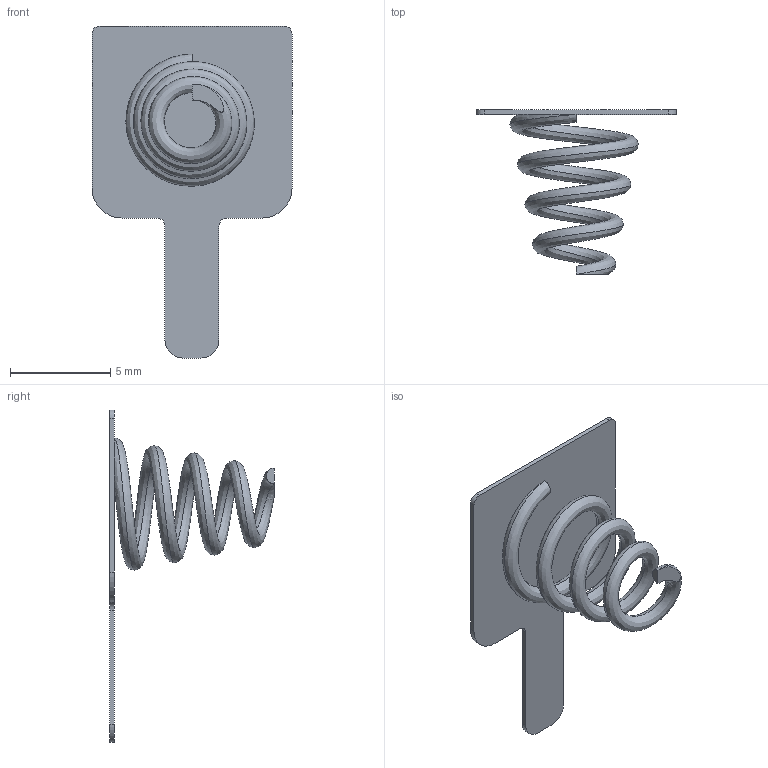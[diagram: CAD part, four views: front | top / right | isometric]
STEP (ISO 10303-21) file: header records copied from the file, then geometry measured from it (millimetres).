
FILE_DESCRIPTION((''),'2;1');
FILE_NAME('B1','2024-04-09T21:04:51',('qinghui.yi'),(''),'CREO PARAMETRIC BY PTC INC, 2019164','CREO PARAMETRIC BY PTC INC, 2019164','');
FILE_SCHEMA(('CONFIG_CONTROL_DESIGN','SHAPE_APPEARANCE_LAYERS_GROUPS'));
Length unit declared in the file: millimetre
Products named in the file (1): B1
Bounding box: 10 x 8.24 x 16.6 mm (x, y, z)
Volume: 54.9 mm3; surface area: 376.6 mm2
Topology: 1 solids, 1 shells, 23 faces, 60 edges, 44 vertices
Faces by surface type: plane 13, cylinder 8, bspline 2
Entity records: 1936 total; most frequent: CARTESIAN_POINT 982, COLOUR_RGB 312, DIRECTION 114, ORIENTED_EDGE 112, EDGE_CURVE 56, AXIS2_PLACEMENT_3D 38, VECTOR 38, LINE 38
